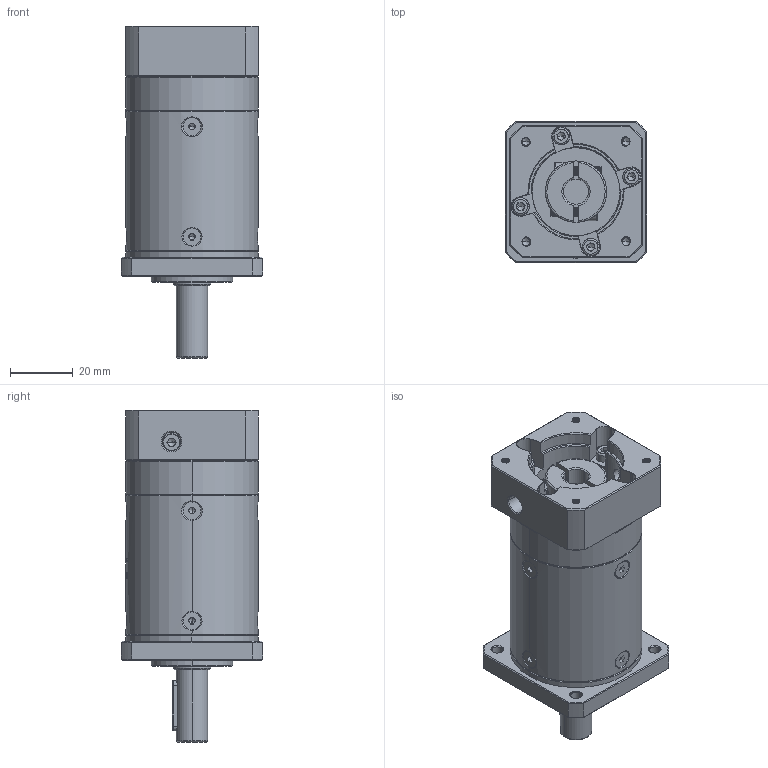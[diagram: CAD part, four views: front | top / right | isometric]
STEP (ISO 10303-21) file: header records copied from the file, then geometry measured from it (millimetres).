
FILE_DESCRIPTION (( 'STEP AP214' ), '1' );
FILE_NAME ('ZF40-L2-8-30-45-M3.step', '2023-03-15T09:46:40', ( '' ), ( '' ), 'SwSTEP 2.0', 'SolidWorks 2016', '' );
FILE_SCHEMA (( 'AUTOMOTIVE_DESIGN' ));
Length unit declared in the file: millimetre
Products named in the file (1): ZF40-L2-8-30-45-M3
Bounding box: 45 x 45 x 105.5 mm (x, y, z)
Volume: 106386.4 mm3; surface area: 28162.7 mm2
Topology: 14 solids, 14 shells, 2104 faces, 5503 edges, 3490 vertices
Faces by surface type: plane 943, cylinder 459, cone 345, bspline 331, torus 26
Entity records: 124183 total; most frequent: CARTESIAN_POINT 53083, ORIENTED_EDGE 10930, DIRECTION 8579, EDGE_CURVE 5465, VERTEX_POINT 3490, AXIS2_PLACEMENT_3D 2880, VECTOR 2819, LINE 2819
